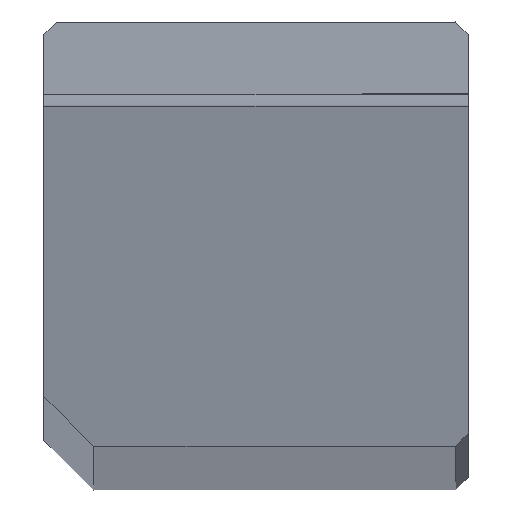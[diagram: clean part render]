
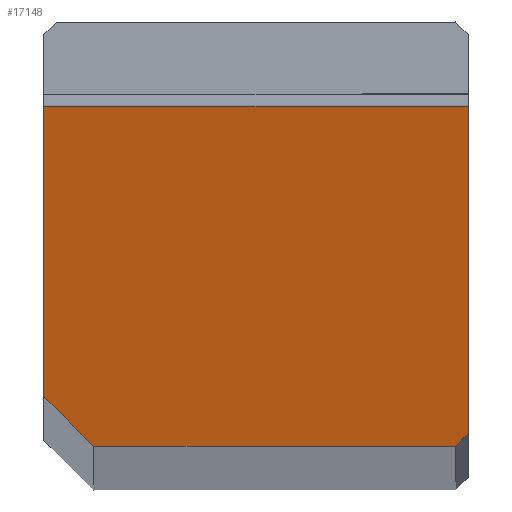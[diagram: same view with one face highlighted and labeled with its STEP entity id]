
A CAD part, top view. The second image highlights one B-rep face of the part: STEP entity #17148.
In plain terms, the highlighted planar face has unit normal (-0.334, 0, 0.943).
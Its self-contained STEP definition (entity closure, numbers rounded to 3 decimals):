
#208 = CARTESIAN_POINT ( 'NONE',  ( -17., -13.5, -6.029 ) ) ;
#870 = VECTOR ( 'NONE', #34684, 1000. ) ;
#1125 = ORIENTED_EDGE ( 'NONE', *, *, #29825, .T. ) ;
#2195 = DIRECTION ( 'NONE',  ( 0.686, 0.686, 0.243 ) ) ;
#2271 = DIRECTION ( 'NONE',  ( 0., -1., 0. ) ) ;
#2608 = DIRECTION ( 'NONE',  ( -0.942, 0., -0.334 ) ) ;
#4328 = CARTESIAN_POINT ( 'NONE',  ( 0., -15.5, 0. ) ) ;
#4535 = LINE ( 'NONE', #4328, #36549 ) ;
#5559 = LINE ( 'NONE', #38456, #28798 ) ;
#5732 = DIRECTION ( 'NONE',  ( 0., -1., 0. ) ) ;
#5759 = DIRECTION ( 'NONE',  ( 0.334, 0., -0.942 ) ) ;
#6511 = DIRECTION ( 'NONE',  ( 0.686, -0.686, 0.243 ) ) ;
#6899 = EDGE_CURVE ( 'NONE', #30335, #13817, #4535, .T. ) ;
#7395 = VERTEX_POINT ( 'NONE', #19205 ) ;
#8489 = CARTESIAN_POINT ( 'NONE',  ( -17., 1.5, -6.029 ) ) ;
#11212 = VECTOR ( 'NONE', #6511, 1000. ) ;
#11999 = VECTOR ( 'NONE', #2271, 1000. ) ;
#13817 = VERTEX_POINT ( 'NONE', #34087 ) ;
#14478 = CARTESIAN_POINT ( 'NONE',  ( 0., -15., 0. ) ) ;
#17148 = ADVANCED_FACE ( 'NONE', ( #24780 ), #35085, .F. ) ;
#17175 = EDGE_CURVE ( 'NONE', #13817, #18151, #5559, .T. ) ;
#17535 = ORIENTED_EDGE ( 'NONE', *, *, #41635, .T. ) ;
#17766 = EDGE_CURVE ( 'NONE', #25036, #18151, #38104, .T. ) ;
#18151 = VERTEX_POINT ( 'NONE', #14478 ) ;
#19205 = CARTESIAN_POINT ( 'NONE',  ( -17., -13.5, -6.029 ) ) ;
#19620 = LINE ( 'NONE', #208, #11212 ) ;
#20017 = EDGE_LOOP ( 'NONE', ( #35467, #17535, #1125, #24211, #37481, #33818 ) ) ;
#20800 = CARTESIAN_POINT ( 'NONE',  ( -17., -1.875, -6.029 ) ) ;
#21816 = CARTESIAN_POINT ( 'NONE',  ( 0., 1.5, 0. ) ) ;
#24211 = ORIENTED_EDGE ( 'NONE', *, *, #24957, .T. ) ;
#24780 = FACE_OUTER_BOUND ( 'NONE', #20017, .T. ) ;
#24957 = EDGE_CURVE ( 'NONE', #7395, #30335, #19620, .T. ) ;
#25036 = VERTEX_POINT ( 'NONE', #32263 ) ;
#25060 = CARTESIAN_POINT ( 'NONE',  ( 0., 1.5, 0. ) ) ;
#25958 = VECTOR ( 'NONE', #5732, 1000. ) ;
#28798 = VECTOR ( 'NONE', #2195, 1000. ) ;
#29463 = AXIS2_PLACEMENT_3D ( 'NONE', #21816, #5759, #2608 ) ;
#29825 = EDGE_CURVE ( 'NONE', #41472, #7395, #37386, .T. ) ;
#30335 = VERTEX_POINT ( 'NONE', #40291 ) ;
#32263 = CARTESIAN_POINT ( 'NONE',  ( 0., -1.875, 0. ) ) ;
#33818 = ORIENTED_EDGE ( 'NONE', *, *, #17175, .T. ) ;
#34087 = CARTESIAN_POINT ( 'NONE',  ( -0.5, -15.5, -0.177 ) ) ;
#34484 = LINE ( 'NONE', #37646, #870 ) ;
#34684 = DIRECTION ( 'NONE',  ( -0.942, 0., -0.334 ) ) ;
#35085 = PLANE ( 'NONE',  #29463 ) ;
#35467 = ORIENTED_EDGE ( 'NONE', *, *, #17766, .F. ) ;
#36549 = VECTOR ( 'NONE', #39554, 1000. ) ;
#37386 = LINE ( 'NONE', #8489, #25958 ) ;
#37481 = ORIENTED_EDGE ( 'NONE', *, *, #6899, .T. ) ;
#37646 = CARTESIAN_POINT ( 'NONE',  ( -8.5, -1.875, -3.015 ) ) ;
#38104 = LINE ( 'NONE', #25060, #11999 ) ;
#38456 = CARTESIAN_POINT ( 'NONE',  ( -166.842, -181.842, -59.174 ) ) ;
#39554 = DIRECTION ( 'NONE',  ( 0.942, 0., 0.334 ) ) ;
#40291 = CARTESIAN_POINT ( 'NONE',  ( -15., -15.5, -5.32 ) ) ;
#41472 = VERTEX_POINT ( 'NONE', #20800 ) ;
#41635 = EDGE_CURVE ( 'NONE', #25036, #41472, #34484, .T. ) ;
